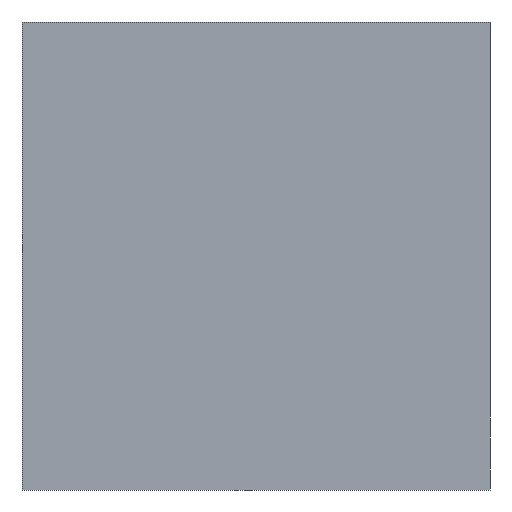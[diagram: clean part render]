
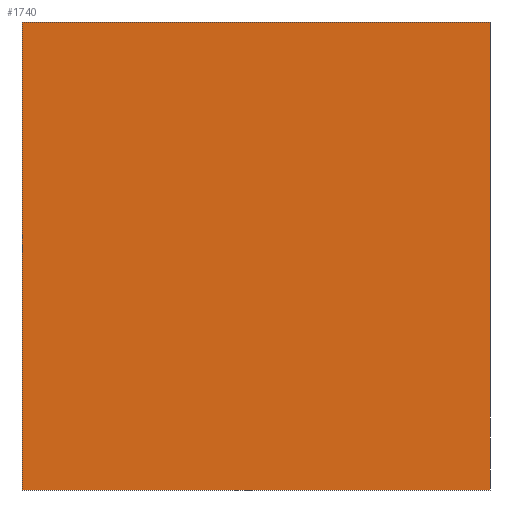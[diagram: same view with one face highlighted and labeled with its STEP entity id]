
A CAD part, left-side view. The second image highlights one B-rep face of the part: STEP entity #1740.
In plain terms, the highlighted planar face has unit normal (-1, 0, 0).
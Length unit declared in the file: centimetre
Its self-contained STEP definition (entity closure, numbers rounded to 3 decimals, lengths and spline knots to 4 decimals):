
#75 = PLANE ( 'NONE',  #1513 ) ;
#92 = VERTEX_POINT ( 'NONE', #1671 ) ;
#363 = FACE_OUTER_BOUND ( 'NONE', #1496, .T. ) ;
#471 = DIRECTION ( 'NONE',  ( 0., 0., -1. ) ) ;
#490 = EDGE_CURVE ( 'NONE', #1543, #938, #1252, .T. ) ;
#496 = CARTESIAN_POINT ( 'NONE',  ( 0., 0., 1000. ) ) ;
#917 = DIRECTION ( 'NONE',  ( 1., 0., 0. ) ) ;
#927 = VERTEX_POINT ( 'NONE', #1265 ) ;
#936 = LINE ( 'NONE', #1624, #1567 ) ;
#938 = VERTEX_POINT ( 'NONE', #1554 ) ;
#941 = LINE ( 'NONE', #1056, #1568 ) ;
#946 = LINE ( 'NONE', #496, #1183 ) ;
#967 = DIRECTION ( 'NONE',  ( 0., -1., 0. ) ) ;
#1052 = ORIENTED_EDGE ( 'NONE', *, *, #1541, .T. ) ;
#1056 = CARTESIAN_POINT ( 'NONE',  ( 0., 1000., 1000. ) ) ;
#1060 = DIRECTION ( 'NONE',  ( 0., 0., -1. ) ) ;
#1160 = ORIENTED_EDGE ( 'NONE', *, *, #1382, .F. ) ;
#1161 = VECTOR ( 'NONE', #967, 100. ) ;
#1183 = VECTOR ( 'NONE', #1060, 100. ) ;
#1252 = LINE ( 'NONE', #1696, #1161 ) ;
#1265 = CARTESIAN_POINT ( 'NONE',  ( 0., 0., 1000. ) ) ;
#1332 = ORIENTED_EDGE ( 'NONE', *, *, #490, .T. ) ;
#1361 = CARTESIAN_POINT ( 'NONE',  ( 0., 1000., 0. ) ) ;
#1382 = EDGE_CURVE ( 'NONE', #92, #927, #941, .T. ) ;
#1496 = EDGE_LOOP ( 'NONE', ( #1332, #1774, #1160, #1052 ) ) ;
#1505 = DIRECTION ( 'NONE',  ( 0., 0., -1. ) ) ;
#1508 = DIRECTION ( 'NONE',  ( 0., -1., 0. ) ) ;
#1513 = AXIS2_PLACEMENT_3D ( 'NONE', #1627, #917, #471 ) ;
#1532 = EDGE_CURVE ( 'NONE', #927, #938, #946, .T. ) ;
#1541 = EDGE_CURVE ( 'NONE', #92, #1543, #936, .T. ) ;
#1543 = VERTEX_POINT ( 'NONE', #1361 ) ;
#1554 = CARTESIAN_POINT ( 'NONE',  ( 0., 0., 0. ) ) ;
#1567 = VECTOR ( 'NONE', #1505, 100. ) ;
#1568 = VECTOR ( 'NONE', #1508, 100. ) ;
#1624 = CARTESIAN_POINT ( 'NONE',  ( 0., 1000., 1000. ) ) ;
#1627 = CARTESIAN_POINT ( 'NONE',  ( 0., 1000., 1000. ) ) ;
#1671 = CARTESIAN_POINT ( 'NONE',  ( 0., 1000., 1000. ) ) ;
#1696 = CARTESIAN_POINT ( 'NONE',  ( 0., 1000., 0. ) ) ;
#1740 = ADVANCED_FACE ( 'NONE', ( #363 ), #75, .F. ) ;
#1774 = ORIENTED_EDGE ( 'NONE', *, *, #1532, .F. ) ;
